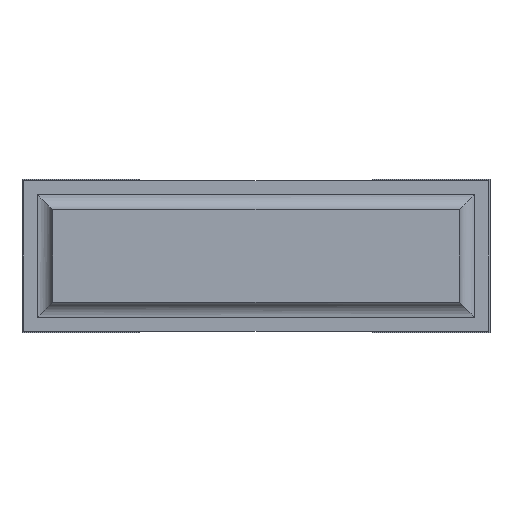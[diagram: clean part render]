
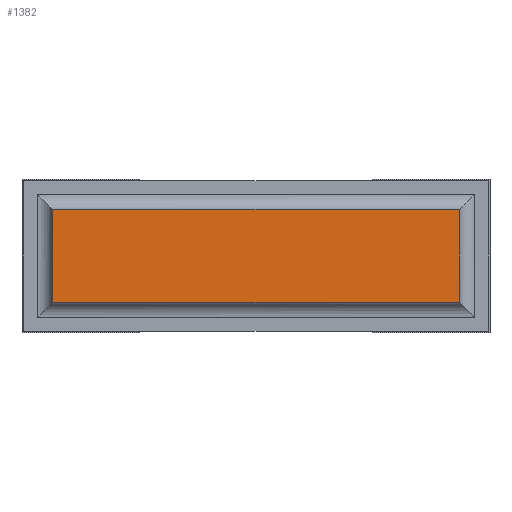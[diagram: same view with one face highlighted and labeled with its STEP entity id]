
A CAD part, front view. The second image highlights one B-rep face of the part: STEP entity #1382.
In plain terms, the highlighted planar face has unit normal (0, -1, 0).
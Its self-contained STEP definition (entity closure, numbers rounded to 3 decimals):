
#120=FACE_OUTER_BOUND('',#206,.T.);
#206=EDGE_LOOP('',(#1155,#1156,#1157,#1158));
#336=LINE('',#2148,#508);
#344=LINE('',#2167,#516);
#348=LINE('',#2179,#520);
#350=LINE('',#2183,#522);
#508=VECTOR('',#1758,10.);
#516=VECTOR('',#1776,10.);
#520=VECTOR('',#1796,10.);
#522=VECTOR('',#1802,10.);
#651=VERTEX_POINT('',#2145);
#652=VERTEX_POINT('',#2147);
#656=VERTEX_POINT('',#2161);
#658=VERTEX_POINT('',#2165);
#812=EDGE_CURVE('',#652,#651,#336,.T.);
#822=EDGE_CURVE('',#656,#658,#344,.T.);
#828=EDGE_CURVE('',#651,#656,#348,.T.);
#830=EDGE_CURVE('',#658,#652,#350,.T.);
#1155=ORIENTED_EDGE('',*,*,#812,.T.);
#1156=ORIENTED_EDGE('',*,*,#828,.T.);
#1157=ORIENTED_EDGE('',*,*,#822,.T.);
#1158=ORIENTED_EDGE('',*,*,#830,.T.);
#1300=PLANE('',#1504);
#1382=ADVANCED_FACE('',(#120),#1300,.T.);
#1504=AXIS2_PLACEMENT_3D('',#2185,#1805,#1806);
#1758=DIRECTION('',(0.,0.,-1.));
#1776=DIRECTION('',(0.,0.,1.));
#1796=DIRECTION('',(1.,0.,0.));
#1802=DIRECTION('',(-1.,0.,0.));
#1805=DIRECTION('center_axis',(0.,-1.,0.));
#1806=DIRECTION('ref_axis',(0.,0.,-1.));
#2145=CARTESIAN_POINT('',(0.1,0.,0.1));
#2147=CARTESIAN_POINT('',(0.1,0.,0.4));
#2148=CARTESIAN_POINT('',(0.1,0.,0.4));
#2161=CARTESIAN_POINT('',(1.42,0.,0.1));
#2165=CARTESIAN_POINT('',(1.42,0.,0.4));
#2167=CARTESIAN_POINT('',(1.42,0.,0.1));
#2179=CARTESIAN_POINT('',(0.1,0.,0.1));
#2183=CARTESIAN_POINT('',(1.42,0.,0.4));
#2185=CARTESIAN_POINT('Origin',(0.1,0.,0.25));
